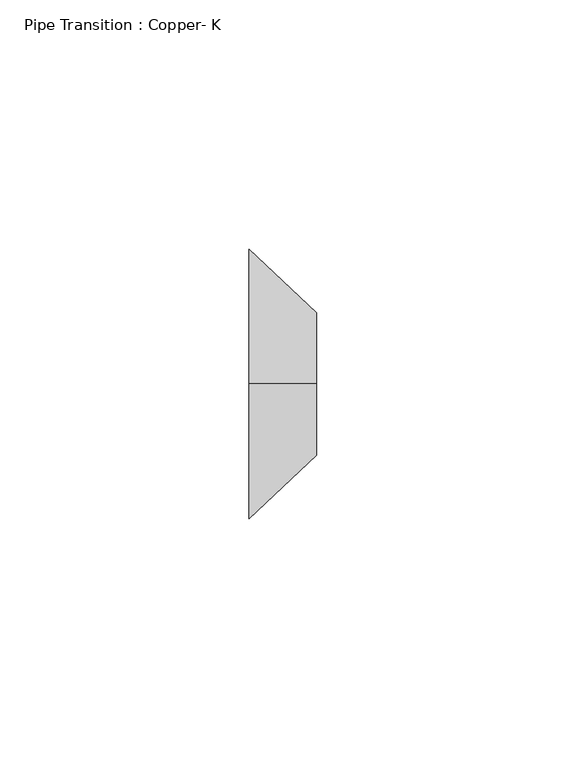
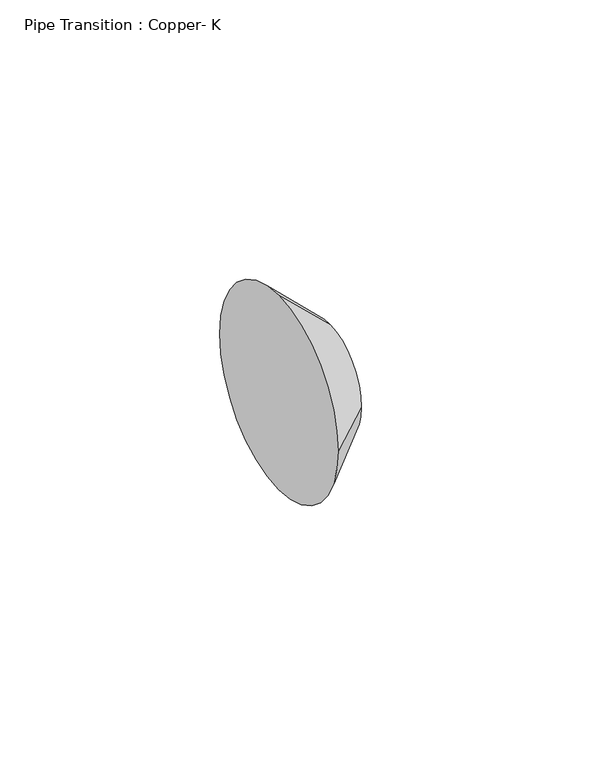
"""IFC4 building model written with IfcOpenShell, lengths in millimetres: pipe fitting geometry, Pipe Transition : Copper- K."""

from ifc_helpers import new_model, si_unit, frame, origin, place, context, project, spatial, circle_curve, source, transform, mapped, element, save
from ifc_brep_helpers import plane_surface, spline_surface, advanced_brep


def pipe_transition_copper_k_cb06518f(model_context):
    return source(origin(), model_context, "Body", "AdvancedBrep", [
        advanced_brep(
        [(13.49375, 0.0, 14.163529), (13.49375, -14.2875, -0.123971), (13.49375, 0.0, -14.411471), (13.49375, 14.2875, -0.123971), (0.0, 0.0, 26.9875), (0.0, 26.9875, 0.0), (0.0, 0.0, -26.9875), (0.0, -26.9875, 0.0)],
        [
            (0, 1, circle_curve(frame((13.49375, 0.0, -0.123971), z_axis=(1.0, 0.0, 0.0), x_axis=(0.0, 1.0, 0.0)), 14.2875)),
            (1, 2, circle_curve(frame((13.49375, 0.0, -0.123971), z_axis=(1.0, 0.0, 0.0), x_axis=(0.0, 1.0, 0.0)), 14.2875)),
            (2, 3, circle_curve(frame((13.49375, 0.0, -0.123971), z_axis=(1.0, 0.0, 0.0), x_axis=(0.0, 1.0, 0.0)), 14.2875)),
            (3, 0, circle_curve(frame((13.49375, 0.0, -0.123971), z_axis=(1.0, 0.0, 0.0), x_axis=(0.0, 1.0, 0.0)), 14.2875)),
            (4, 5, circle_curve(frame((0.0, 0.0, 0.0), z_axis=(-1.0, 0.0, 0.0), x_axis=(0.0, 1.0, 0.0)), 26.9875)),
            (5, 6, circle_curve(frame((0.0, 0.0, 0.0), z_axis=(-1.0, 0.0, 0.0), x_axis=(0.0, 1.0, 0.0)), 26.9875)),
            (6, 7, circle_curve(frame((0.0, 0.0, 0.0), z_axis=(-1.0, 0.0, 0.0), x_axis=(0.0, 1.0, 0.0)), 26.9875)),
            (7, 4, circle_curve(frame((0.0, 0.0, 0.0), z_axis=(-1.0, 0.0, 0.0), x_axis=(0.0, 1.0, 0.0)), 26.9875)),
            (7, 1),
            (0, 4),
            (6, 2),
            (5, 3),
        ],
        [
            plane_surface(frame((13.49375, 0.0, -0.123971), z_axis=(1.0, 0.0, 0.0), x_axis=(0.0, -1.0, 0.0))),
            plane_surface(frame((0.0, 0.0, 0.0), z_axis=(-1.0, 0.0, 0.0), x_axis=(0.0, -1.0, 0.0))),
            spline_surface(2, 1, [[(0.0, 0.0, 26.9875), (13.49375, 0.0, 14.163529)], [(0.0, -26.9875, 26.9875), (13.49375, -14.2875, 14.163529)], [(0.0, -26.9875, 0.0), (13.49375, -14.2875, -0.123971)]], [3, 3], [2, 2], [0.0, 1.0], [0.0, 1.0], weights=[[1.0, 1.0], [0.7071067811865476, 0.7071067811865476], [1.0, 1.0]]),
            spline_surface(2, 1, [[(0.0, -26.9875, 0.0), (13.49375, -14.2875, -0.123971)], [(0.0, -26.9875, -26.9875), (13.49375, -14.2875, -14.411470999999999)], [(0.0, 0.0, -26.9875), (13.49375, 0.0, -14.411471)]], [3, 3], [2, 2], [0.0, 1.0], [0.0, 1.0], weights=[[1.0, 1.0], [0.7071067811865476, 0.7071067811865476], [1.0, 1.0]]),
            spline_surface(2, 1, [[(0.0, 0.0, -26.9875), (13.49375, 0.0, -14.411471)], [(0.0, 26.9875, -26.9875), (13.49375, 14.287500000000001, -14.411471)], [(0.0, 26.9875, 0.0), (13.49375, 14.2875, -0.123971)]], [3, 3], [2, 2], [0.0, 1.0], [0.0, 1.0], weights=[[1.0, 1.0], [0.7071067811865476, 0.7071067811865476], [1.0, 1.0]]),
            spline_surface(2, 1, [[(0.0, 26.9875, 0.0), (13.49375, 14.2875, -0.123971)], [(0.0, 26.9875, 26.9875), (13.49375, 14.2875, 14.163529)], [(0.0, 0.0, 26.9875), (13.49375, 0.0, 14.163529)]], [3, 3], [2, 2], [0.0, 1.0], [0.0, 1.0], weights=[[1.0, 1.0], [0.7071067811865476, 0.7071067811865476], [1.0, 1.0]]),
        ],
        [
            (0, [[1, 2, 3, 4]]),
            (1, [[5, 6, 7, 8]]),
            (2, [[-8, 9, -1, 10]]),
            (3, [[-7, 11, -2, -9]]),
            (4, [[-6, 12, -3, -11]]),
            (5, [[-5, -10, -4, -12]]),
        ],
    ),
        advanced_brep(
        [(13.49375, 0.0, 14.163529), (13.49375, -14.2875, -0.123971), (13.49375, 0.0, -14.411471), (13.49375, 14.2875, -0.123971), (0.0, 0.0, 26.9875), (0.0, 26.9875, 0.0), (0.0, 0.0, -26.9875), (0.0, -26.9875, 0.0)],
        [
            (0, 1, circle_curve(frame((13.49375, 0.0, -0.123971), z_axis=(1.0, 0.0, 0.0), x_axis=(0.0, 1.0, 0.0)), 14.2875)),
            (1, 2, circle_curve(frame((13.49375, 0.0, -0.123971), z_axis=(1.0, 0.0, 0.0), x_axis=(0.0, 1.0, 0.0)), 14.2875)),
            (2, 3, circle_curve(frame((13.49375, 0.0, -0.123971), z_axis=(1.0, 0.0, 0.0), x_axis=(0.0, 1.0, 0.0)), 14.2875)),
            (3, 0, circle_curve(frame((13.49375, 0.0, -0.123971), z_axis=(1.0, 0.0, 0.0), x_axis=(0.0, 1.0, 0.0)), 14.2875)),
            (4, 5, circle_curve(frame((0.0, 0.0, 0.0), z_axis=(-1.0, 0.0, 0.0), x_axis=(0.0, 1.0, 0.0)), 26.9875)),
            (5, 6, circle_curve(frame((0.0, 0.0, 0.0), z_axis=(-1.0, 0.0, 0.0), x_axis=(0.0, 1.0, 0.0)), 26.9875)),
            (6, 7, circle_curve(frame((0.0, 0.0, 0.0), z_axis=(-1.0, 0.0, 0.0), x_axis=(0.0, 1.0, 0.0)), 26.9875)),
            (7, 4, circle_curve(frame((0.0, 0.0, 0.0), z_axis=(-1.0, 0.0, 0.0), x_axis=(0.0, 1.0, 0.0)), 26.9875)),
            (7, 1),
            (0, 4),
            (6, 2),
            (5, 3),
        ],
        [
            plane_surface(frame((13.49375, 0.0, -0.123971), z_axis=(1.0, 0.0, 0.0), x_axis=(0.0, -1.0, 0.0))),
            plane_surface(frame((0.0, 0.0, 0.0), z_axis=(-1.0, 0.0, 0.0), x_axis=(0.0, -1.0, 0.0))),
            spline_surface(2, 1, [[(0.0, 0.0, 26.9875), (13.49375, 0.0, 14.163529)], [(0.0, -26.9875, 26.9875), (13.49375, -14.2875, 14.163529)], [(0.0, -26.9875, 0.0), (13.49375, -14.2875, -0.123971)]], [3, 3], [2, 2], [0.0, 1.0], [0.0, 1.0], weights=[[1.0, 1.0], [0.7071067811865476, 0.7071067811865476], [1.0, 1.0]]),
            spline_surface(2, 1, [[(0.0, -26.9875, 0.0), (13.49375, -14.2875, -0.123971)], [(0.0, -26.9875, -26.9875), (13.49375, -14.2875, -14.411470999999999)], [(0.0, 0.0, -26.9875), (13.49375, 0.0, -14.411471)]], [3, 3], [2, 2], [0.0, 1.0], [0.0, 1.0], weights=[[1.0, 1.0], [0.7071067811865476, 0.7071067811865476], [1.0, 1.0]]),
            spline_surface(2, 1, [[(0.0, 0.0, -26.9875), (13.49375, 0.0, -14.411471)], [(0.0, 26.9875, -26.9875), (13.49375, 14.287500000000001, -14.411471)], [(0.0, 26.9875, 0.0), (13.49375, 14.2875, -0.123971)]], [3, 3], [2, 2], [0.0, 1.0], [0.0, 1.0], weights=[[1.0, 1.0], [0.7071067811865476, 0.7071067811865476], [1.0, 1.0]]),
            spline_surface(2, 1, [[(0.0, 26.9875, 0.0), (13.49375, 14.2875, -0.123971)], [(0.0, 26.9875, 26.9875), (13.49375, 14.2875, 14.163529)], [(0.0, 0.0, 26.9875), (13.49375, 0.0, 14.163529)]], [3, 3], [2, 2], [0.0, 1.0], [0.0, 1.0], weights=[[1.0, 1.0], [0.7071067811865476, 0.7071067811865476], [1.0, 1.0]]),
        ],
        [
            (0, [[1, 2, 3, 4]]),
            (1, [[5, 6, 7, 8]]),
            (2, [[-8, 9, -1, 10]]),
            (3, [[-7, 11, -2, -9]]),
            (4, [[-6, 12, -3, -11]]),
            (5, [[-5, -10, -4, -12]]),
        ],
    ),
    ])


if __name__ == "__main__":
    model = new_model("IFC4")
    model_context = context("Model", 3, world=origin())
    ifc_project = project(units=[si_unit("LENGTHUNIT", "METRE", prefix="MILLI")], contexts=[model_context])
    site = spatial("IfcSite", under=ifc_project)
    building = spatial("IfcBuilding", under=site)
    placement = place(None, origin())
    pipe_transition_copper_k_shape = pipe_transition_copper_k_cb06518f(model_context)
    element("IfcPipeFitting", 1, ObjectType="Pipe Transition : Copper- K", at=placement, inside=building, context=model_context, shape_type="MappedRepresentation", body=[
        mapped(pipe_transition_copper_k_shape, transform((0.0, 0.0, 0.0), x_axis=(1.0, 0.0, 0.0), y_axis=(0.0, 1.0, 0.0), z_axis=(0.0, 0.0, 1.0))),
    ])
    save(model, "model.ifc")
